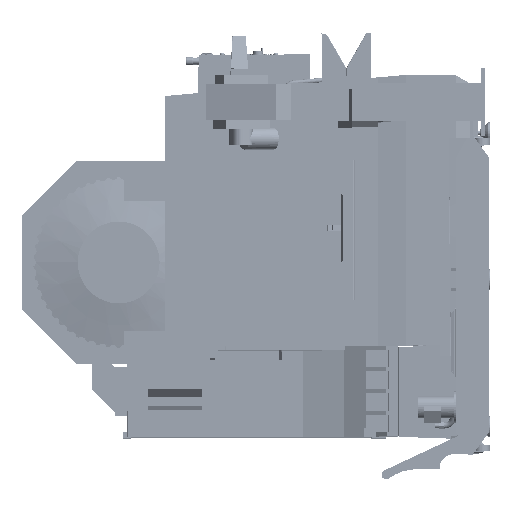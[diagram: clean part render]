
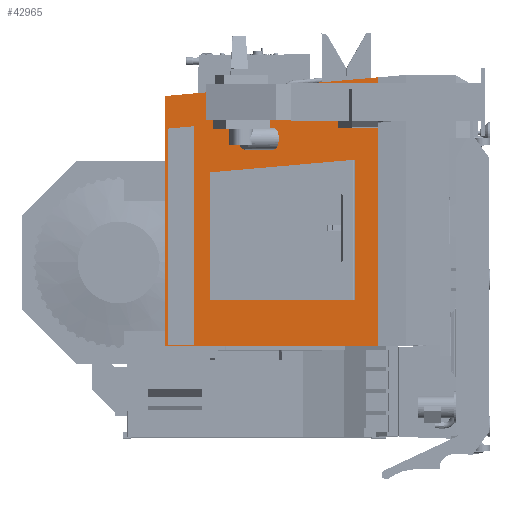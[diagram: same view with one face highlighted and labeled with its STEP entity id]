
A CAD part, left-side view. The second image highlights one B-rep face of the part: STEP entity #42965.
In plain terms, the highlighted planar face has unit normal (-1, 0, 0).
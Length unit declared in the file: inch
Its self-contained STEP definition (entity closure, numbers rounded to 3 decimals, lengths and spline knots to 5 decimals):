
#7310 = ORIENTED_EDGE ( 'NONE', *, *, #222010, .F. ) ;
#10178 = VECTOR ( 'NONE', #101947, 39.37008 ) ;
#13953 = CARTESIAN_POINT ( 'NONE',  ( -68.25, 13.20387, 46.16439 ) ) ;
#16872 = DIRECTION ( 'NONE',  ( 0., -1., 0. ) ) ;
#18886 = CARTESIAN_POINT ( 'NONE',  ( -68.25, 58.66232, 53.73791 ) ) ;
#24637 = DIRECTION ( 'NONE',  ( 0., 0.996, -0.087 ) ) ;
#28227 = VERTEX_POINT ( 'NONE', #327437 ) ;
#29267 = CARTESIAN_POINT ( 'NONE',  ( -68.25, 48.46528, 43.07942 ) ) ;
#31556 = VECTOR ( 'NONE', #377970, 39.37008 ) ;
#40042 = FACE_BOUND ( 'NONE', #81483, .T. ) ;
#40895 = CARTESIAN_POINT ( 'NONE',  ( -68.25, 59.3068, 0.81851 ) ) ;
#41918 = DIRECTION ( 'NONE',  ( -1., 0., 0. ) ) ;
#42965 = ADVANCED_FACE ( 'NONE', ( #192248, #40042, #70850 ), #157592, .T. ) ;
#46706 = VECTOR ( 'NONE', #110224, 39.37008 ) ;
#57385 = DIRECTION ( 'NONE',  ( 0., -1., 0. ) ) ;
#63085 = VERTEX_POINT ( 'NONE', #86444 ) ;
#63804 = DIRECTION ( 'NONE',  ( 0., -1., 0. ) ) ;
#69792 = DIRECTION ( 'NONE',  ( 0., 1., 0. ) ) ;
#70850 = FACE_BOUND ( 'NONE', #247516, .T. ) ;
#71092 = ORIENTED_EDGE ( 'NONE', *, *, #281357, .F. ) ;
#76096 = VECTOR ( 'NONE', #57385, 39.37008 ) ;
#78950 = CARTESIAN_POINT ( 'NONE',  ( -68.25, 7.64646, 66.18524 ) ) ;
#79751 = LINE ( 'NONE', #197383, #253892 ) ;
#81483 = EDGE_LOOP ( 'NONE', ( #71092, #7310, #226411, #300298 ) ) ;
#84928 = LINE ( 'NONE', #202576, #371640 ) ;
#86281 = LINE ( 'NONE', #321419, #76096 ) ;
#86444 = CARTESIAN_POINT ( 'NONE',  ( -68.25, 7.64646, 0.81851 ) ) ;
#100044 = LINE ( 'NONE', #248475, #10178 ) ;
#101409 = DIRECTION ( 'NONE',  ( 0., 0., 1. ) ) ;
#101947 = DIRECTION ( 'NONE',  ( 0., -0.996, 0.087 ) ) ;
#104387 = LINE ( 'NONE', #13953, #334567 ) ;
#110224 = DIRECTION ( 'NONE',  ( 0., 0., -1. ) ) ;
#113151 = CARTESIAN_POINT ( 'NONE',  ( -68.25, 59.3068, 1.83851 ) ) ;
#115129 = EDGE_CURVE ( 'NONE', #205815, #270979, #86281, .T. ) ;
#116498 = CARTESIAN_POINT ( 'NONE',  ( -68.25, 13.20387, 12.15321 ) ) ;
#117137 = EDGE_CURVE ( 'NONE', #63085, #165599, #121924, .T. ) ;
#121924 = LINE ( 'NONE', #40895, #292650 ) ;
#130438 = EDGE_CURVE ( 'NONE', #370529, #63085, #79751, .T. ) ;
#134342 = CARTESIAN_POINT ( 'NONE',  ( -68.25, 59.3068, 1.83851 ) ) ;
#139459 = DIRECTION ( 'NONE',  ( 0., 0., -1. ) ) ;
#140170 = DIRECTION ( 'NONE',  ( 0., 0., -1. ) ) ;
#146869 = EDGE_CURVE ( 'NONE', #270979, #293693, #104387, .T. ) ;
#157592 = PLANE ( 'NONE',  #347998 ) ;
#158308 = EDGE_CURVE ( 'NONE', #158484, #205815, #347243, .T. ) ;
#158484 = VERTEX_POINT ( 'NONE', #29267 ) ;
#165599 = VERTEX_POINT ( 'NONE', #338024 ) ;
#170679 = ORIENTED_EDGE ( 'NONE', *, *, #313810, .F. ) ;
#172591 = CARTESIAN_POINT ( 'NONE',  ( -68.25, 48.46528, 12.15321 ) ) ;
#174254 = VECTOR ( 'NONE', #101409, 39.37008 ) ;
#177540 = LINE ( 'NONE', #350989, #31556 ) ;
#177631 = VECTOR ( 'NONE', #63804, 39.37008 ) ;
#179246 = EDGE_CURVE ( 'NONE', #293693, #158484, #309913, .T. ) ;
#185099 = ORIENTED_EDGE ( 'NONE', *, *, #115129, .F. ) ;
#188977 = CARTESIAN_POINT ( 'NONE',  ( -68.25, 58.66232, 1.04191 ) ) ;
#192248 = FACE_OUTER_BOUND ( 'NONE', #315413, .T. ) ;
#194261 = ORIENTED_EDGE ( 'NONE', *, *, #158308, .F. ) ;
#197383 = CARTESIAN_POINT ( 'NONE',  ( -68.25, 7.64646, 1.83851 ) ) ;
#202576 = CARTESIAN_POINT ( 'NONE',  ( -68.25, 58.66232, 53.73791 ) ) ;
#205815 = VERTEX_POINT ( 'NONE', #172591 ) ;
#214460 = DIRECTION ( 'NONE',  ( 0., 0., 1. ) ) ;
#214506 = EDGE_CURVE ( 'NONE', #331762, #28227, #322121, .T. ) ;
#220557 = CARTESIAN_POINT ( 'NONE',  ( -68.25, 59.3068, 61.66554 ) ) ;
#222010 = EDGE_CURVE ( 'NONE', #28227, #298852, #247932, .T. ) ;
#226411 = ORIENTED_EDGE ( 'NONE', *, *, #214506, .F. ) ;
#234021 = ORIENTED_EDGE ( 'NONE', *, *, #146869, .F. ) ;
#247028 = CARTESIAN_POINT ( 'NONE',  ( -68.25, 52.40972, 54.28494 ) ) ;
#247516 = EDGE_LOOP ( 'NONE', ( #372722, #234021, #185099, #194261 ) ) ;
#247932 = LINE ( 'NONE', #365403, #174254 ) ;
#248475 = CARTESIAN_POINT ( 'NONE',  ( -68.25, 64.50123, 61.21109 ) ) ;
#253892 = VECTOR ( 'NONE', #139459, 39.37008 ) ;
#258931 = EDGE_CURVE ( 'NONE', #354615, #331762, #84928, .T. ) ;
#260576 = CARTESIAN_POINT ( 'NONE',  ( -68.25, 48.46528, 43.07942 ) ) ;
#270979 = VERTEX_POINT ( 'NONE', #116498 ) ;
#273931 = ORIENTED_EDGE ( 'NONE', *, *, #117137, .F. ) ;
#281357 = EDGE_CURVE ( 'NONE', #298852, #354615, #177540, .T. ) ;
#285339 = ORIENTED_EDGE ( 'NONE', *, *, #322057, .T. ) ;
#290413 = VECTOR ( 'NONE', #140170, 39.37008 ) ;
#292650 = VECTOR ( 'NONE', #69792, 39.37008 ) ;
#293693 = VERTEX_POINT ( 'NONE', #310843 ) ;
#298852 = VERTEX_POINT ( 'NONE', #247028 ) ;
#300298 = ORIENTED_EDGE ( 'NONE', *, *, #258931, .F. ) ;
#309913 = LINE ( 'NONE', #340692, #358920 ) ;
#310843 = CARTESIAN_POINT ( 'NONE',  ( -68.25, 13.20387, 46.16439 ) ) ;
#313810 = EDGE_CURVE ( 'NONE', #378708, #370529, #100044, .T. ) ;
#315413 = EDGE_LOOP ( 'NONE', ( #170679, #285339, #273931, #368966 ) ) ;
#320070 = DIRECTION ( 'NONE',  ( 0., 0., -1. ) ) ;
#321419 = CARTESIAN_POINT ( 'NONE',  ( -68.25, 48.46528, 12.15321 ) ) ;
#322057 = EDGE_CURVE ( 'NONE', #378708, #165599, #380954, .T. ) ;
#322121 = LINE ( 'NONE', #188977, #177631 ) ;
#327437 = CARTESIAN_POINT ( 'NONE',  ( -68.25, 52.40972, 1.04191 ) ) ;
#329624 = CARTESIAN_POINT ( 'NONE',  ( -68.25, 58.66232, 1.04191 ) ) ;
#331762 = VERTEX_POINT ( 'NONE', #329624 ) ;
#334567 = VECTOR ( 'NONE', #214460, 39.37008 ) ;
#338024 = CARTESIAN_POINT ( 'NONE',  ( -68.25, 59.3068, 0.81851 ) ) ;
#340692 = CARTESIAN_POINT ( 'NONE',  ( -68.25, 13.20387, 46.16439 ) ) ;
#347243 = LINE ( 'NONE', #260576, #46706 ) ;
#347998 = AXIS2_PLACEMENT_3D ( 'NONE', #134342, #41918, #16872 ) ;
#350989 = CARTESIAN_POINT ( 'NONE',  ( -68.25, 52.40972, 54.28494 ) ) ;
#354615 = VERTEX_POINT ( 'NONE', #18886 ) ;
#358920 = VECTOR ( 'NONE', #24637, 39.37008 ) ;
#365403 = CARTESIAN_POINT ( 'NONE',  ( -68.25, 52.40972, 1.04191 ) ) ;
#368966 = ORIENTED_EDGE ( 'NONE', *, *, #130438, .F. ) ;
#370529 = VERTEX_POINT ( 'NONE', #78950 ) ;
#371640 = VECTOR ( 'NONE', #320070, 39.37008 ) ;
#372722 = ORIENTED_EDGE ( 'NONE', *, *, #179246, .F. ) ;
#377970 = DIRECTION ( 'NONE',  ( 0., 0.996, -0.087 ) ) ;
#378708 = VERTEX_POINT ( 'NONE', #220557 ) ;
#380954 = LINE ( 'NONE', #113151, #290413 ) ;
